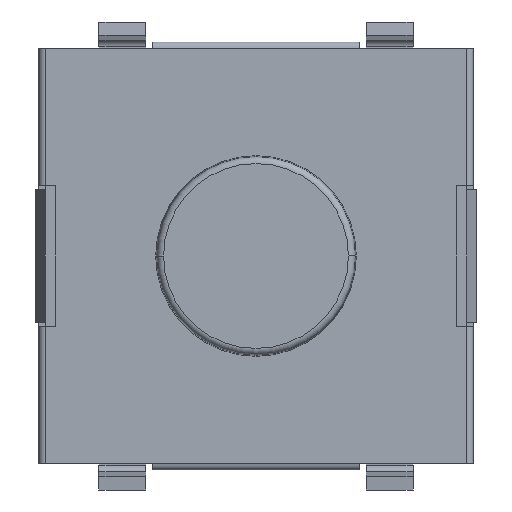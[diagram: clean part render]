
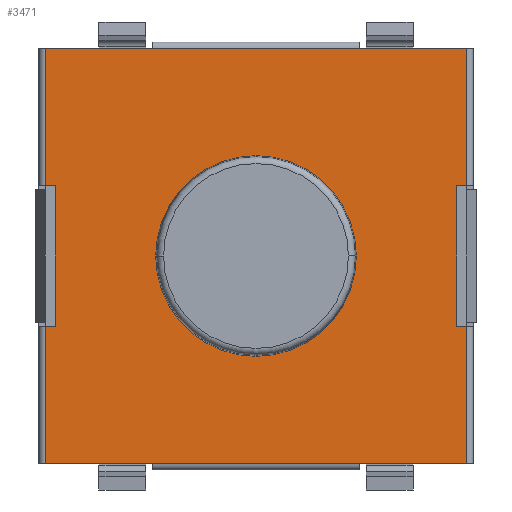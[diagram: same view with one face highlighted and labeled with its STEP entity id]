
A CAD part, front view. The second image highlights one B-rep face of the part: STEP entity #3471.
In plain terms, the highlighted planar face has unit normal (0, -1, 0).
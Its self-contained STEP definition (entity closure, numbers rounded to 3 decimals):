
#2676=CARTESIAN_POINT('',(0.,-0.1,0.));
#2677=DIRECTION('',(0.,-1.,0.));
#2678=DIRECTION('',(1.,0.,0.));
#2679=AXIS2_PLACEMENT_3D('',#2676,#2677,#2678);
#2681=CARTESIAN_POINT('',(0.,-0.1,0.));
#2682=DIRECTION('',(0.,-1.,0.));
#2683=DIRECTION('',(-1.,0.,0.));
#2684=AXIS2_PLACEMENT_3D('',#2681,#2682,#2683);
#2686=DIRECTION('',(0.,0.,1.));
#2687=VECTOR('',#2686,2.1);
#2688=CARTESIAN_POINT('',(-3.,-0.1,-1.05));
#2689=LINE('',#2688,#2687);
#2690=DIRECTION('',(1.,0.,0.));
#2691=VECTOR('',#2690,0.15);
#2692=CARTESIAN_POINT('',(-3.15,-0.1,1.05));
#2693=LINE('',#2692,#2691);
#2694=DIRECTION('',(1.,0.,0.));
#2695=VECTOR('',#2694,1.6);
#2696=CARTESIAN_POINT('',(-3.15,-0.1,3.1));
#2697=LINE('',#2696,#2695);
#2698=DIRECTION('',(1.,0.,0.));
#2699=VECTOR('',#2698,1.6);
#2700=CARTESIAN_POINT('',(1.55,-0.1,3.1));
#2701=LINE('',#2700,#2699);
#2702=DIRECTION('',(-1.,0.,0.));
#2703=VECTOR('',#2702,0.15);
#2704=CARTESIAN_POINT('',(3.15,-0.1,1.05));
#2705=LINE('',#2704,#2703);
#2706=DIRECTION('',(0.,0.,1.));
#2707=VECTOR('',#2706,2.1);
#2708=CARTESIAN_POINT('',(3.,-0.1,-1.05));
#2709=LINE('',#2708,#2707);
#2710=DIRECTION('',(-1.,0.,0.));
#2711=VECTOR('',#2710,0.15);
#2712=CARTESIAN_POINT('',(3.15,-0.1,-1.05));
#2713=LINE('',#2712,#2711);
#2714=DIRECTION('',(-1.,0.,0.));
#2715=VECTOR('',#2714,1.6);
#2716=CARTESIAN_POINT('',(3.15,-0.1,-3.1));
#2717=LINE('',#2716,#2715);
#2718=DIRECTION('',(-1.,0.,0.));
#2719=VECTOR('',#2718,1.6);
#2720=CARTESIAN_POINT('',(-1.55,-0.1,-3.1));
#2721=LINE('',#2720,#2719);
#2722=DIRECTION('',(1.,0.,0.));
#2723=VECTOR('',#2722,0.15);
#2724=CARTESIAN_POINT('',(-3.15,-0.1,-1.05));
#2725=LINE('',#2724,#2723);
#2986=DIRECTION('',(0.,0.,-1.));
#2987=VECTOR('',#2986,2.05);
#2988=CARTESIAN_POINT('',(3.15,-0.1,3.1));
#2989=LINE('',#2988,#2987);
#3004=DIRECTION('',(0.,0.,-1.));
#3005=VECTOR('',#3004,2.05);
#3006=CARTESIAN_POINT('',(3.15,-0.1,-1.05));
#3007=LINE('',#3006,#3005);
#3102=DIRECTION('',(0.,0.,1.));
#3103=VECTOR('',#3102,2.05);
#3104=CARTESIAN_POINT('',(-3.15,-0.1,-3.1));
#3105=LINE('',#3104,#3103);
#3120=DIRECTION('',(0.,0.,1.));
#3121=VECTOR('',#3120,2.05);
#3122=CARTESIAN_POINT('',(-3.15,-0.1,1.05));
#3123=LINE('',#3122,#3121);
#3163=DIRECTION('',(-1.,0.,0.));
#3164=VECTOR('',#3163,3.1);
#3165=CARTESIAN_POINT('',(1.55,-0.1,-3.1));
#3166=LINE('',#3165,#3164);
#3185=DIRECTION('',(1.,0.,0.));
#3186=VECTOR('',#3185,3.1);
#3187=CARTESIAN_POINT('',(-1.55,-0.1,3.1));
#3188=LINE('',#3187,#3186);
#3198=CARTESIAN_POINT('',(1.5,-0.1,0.));
#3199=CARTESIAN_POINT('',(-1.5,-0.1,0.));
#3200=VERTEX_POINT('',#3198);
#3201=VERTEX_POINT('',#3199);
#3214=CARTESIAN_POINT('',(-3.15,-0.1,3.1));
#3215=VERTEX_POINT('',#3214);
#3216=CARTESIAN_POINT('',(-3.15,-0.1,-3.1));
#3217=VERTEX_POINT('',#3216);
#3222=CARTESIAN_POINT('',(3.15,-0.1,-3.1));
#3223=VERTEX_POINT('',#3222);
#3224=CARTESIAN_POINT('',(3.15,-0.1,3.1));
#3225=VERTEX_POINT('',#3224);
#3226=CARTESIAN_POINT('',(1.55,-0.1,-3.1));
#3227=VERTEX_POINT('',#3226);
#3230=CARTESIAN_POINT('',(-1.55,-0.1,-3.1));
#3231=VERTEX_POINT('',#3230);
#3262=CARTESIAN_POINT('',(-1.55,-0.1,3.1));
#3263=VERTEX_POINT('',#3262);
#3264=CARTESIAN_POINT('',(1.55,-0.1,3.1));
#3265=VERTEX_POINT('',#3264);
#3278=CARTESIAN_POINT('',(3.,-0.1,-1.05));
#3279=CARTESIAN_POINT('',(3.,-0.1,1.05));
#3280=VERTEX_POINT('',#3278);
#3281=VERTEX_POINT('',#3279);
#3282=CARTESIAN_POINT('',(3.15,-0.1,1.05));
#3283=VERTEX_POINT('',#3282);
#3284=CARTESIAN_POINT('',(3.15,-0.1,-1.05));
#3285=VERTEX_POINT('',#3284);
#3306=CARTESIAN_POINT('',(-3.,-0.1,-1.05));
#3307=CARTESIAN_POINT('',(-3.,-0.1,1.05));
#3308=VERTEX_POINT('',#3306);
#3309=VERTEX_POINT('',#3307);
#3310=CARTESIAN_POINT('',(-3.15,-0.1,1.05));
#3311=VERTEX_POINT('',#3310);
#3312=CARTESIAN_POINT('',(-3.15,-0.1,-1.05));
#3313=VERTEX_POINT('',#3312);
#3428=CARTESIAN_POINT('',(0.,-0.1,0.));
#3429=DIRECTION('',(0.,1.,0.));
#3430=DIRECTION('',(1.,0.,0.));
#3431=AXIS2_PLACEMENT_3D('',#3428,#3429,#3430);
#3432=PLANE('',#3431);
#3434=ORIENTED_EDGE('',*,*,#3433,.T.);
#3436=ORIENTED_EDGE('',*,*,#3435,.F.);
#3438=ORIENTED_EDGE('',*,*,#3437,.T.);
#3440=ORIENTED_EDGE('',*,*,#3439,.T.);
#3442=ORIENTED_EDGE('',*,*,#3441,.T.);
#3444=ORIENTED_EDGE('',*,*,#3443,.T.);
#3446=ORIENTED_EDGE('',*,*,#3445,.T.);
#3448=ORIENTED_EDGE('',*,*,#3447,.T.);
#3450=ORIENTED_EDGE('',*,*,#3449,.F.);
#3452=ORIENTED_EDGE('',*,*,#3451,.F.);
#3454=ORIENTED_EDGE('',*,*,#3453,.T.);
#3456=ORIENTED_EDGE('',*,*,#3455,.T.);
#3458=ORIENTED_EDGE('',*,*,#3457,.T.);
#3460=ORIENTED_EDGE('',*,*,#3459,.T.);
#3462=ORIENTED_EDGE('',*,*,#3461,.T.);
#3464=ORIENTED_EDGE('',*,*,#3463,.T.);
#3465=EDGE_LOOP('',(#3434,#3436,#3438,#3440,#3442,#3444,#3446,#3448,#3450,#3452,
#3454,#3456,#3458,#3460,#3462,#3464));
#3466=FACE_OUTER_BOUND('',#3465,.F.);
#3467=ORIENTED_EDGE('',*,*,#3408,.T.);
#3468=ORIENTED_EDGE('',*,*,#3422,.T.);
#3469=EDGE_LOOP('',(#3467,#3468));
#3470=FACE_BOUND('',#3469,.F.);
#2680=CIRCLE('',#2679,1.5);
#2685=CIRCLE('',#2684,1.5);
#3408=EDGE_CURVE('',#3200,#3201,#2680,.T.);
#3422=EDGE_CURVE('',#3201,#3200,#2685,.T.);
#3433=EDGE_CURVE('',#3308,#3309,#2689,.T.);
#3435=EDGE_CURVE('',#3311,#3309,#2693,.T.);
#3437=EDGE_CURVE('',#3311,#3215,#3123,.T.);
#3439=EDGE_CURVE('',#3215,#3263,#2697,.T.);
#3441=EDGE_CURVE('',#3263,#3265,#3188,.T.);
#3443=EDGE_CURVE('',#3265,#3225,#2701,.T.);
#3445=EDGE_CURVE('',#3225,#3283,#2989,.T.);
#3447=EDGE_CURVE('',#3283,#3281,#2705,.T.);
#3449=EDGE_CURVE('',#3280,#3281,#2709,.T.);
#3451=EDGE_CURVE('',#3285,#3280,#2713,.T.);
#3453=EDGE_CURVE('',#3285,#3223,#3007,.T.);
#3455=EDGE_CURVE('',#3223,#3227,#2717,.T.);
#3457=EDGE_CURVE('',#3227,#3231,#3166,.T.);
#3459=EDGE_CURVE('',#3231,#3217,#2721,.T.);
#3461=EDGE_CURVE('',#3217,#3313,#3105,.T.);
#3463=EDGE_CURVE('',#3313,#3308,#2725,.T.);
#3471=ADVANCED_FACE('',(#3466,#3470),#3432,.F.);
